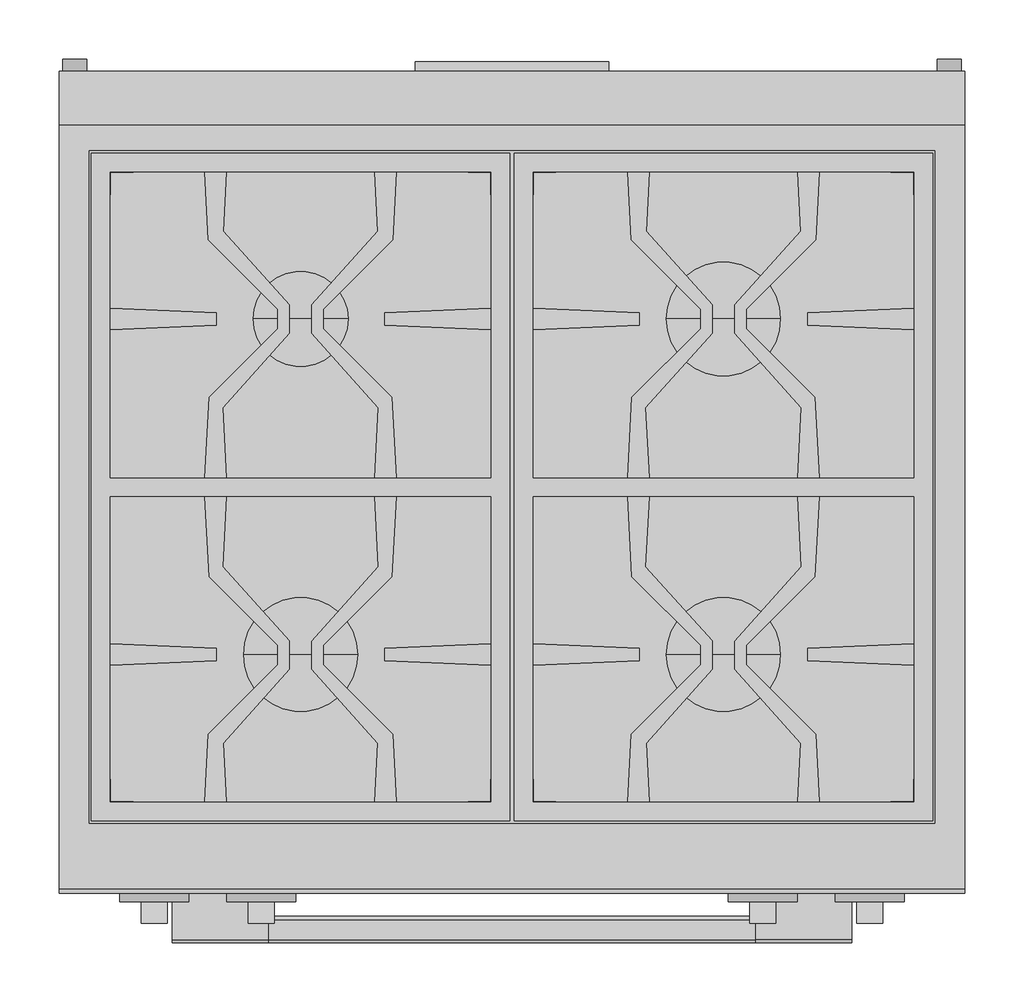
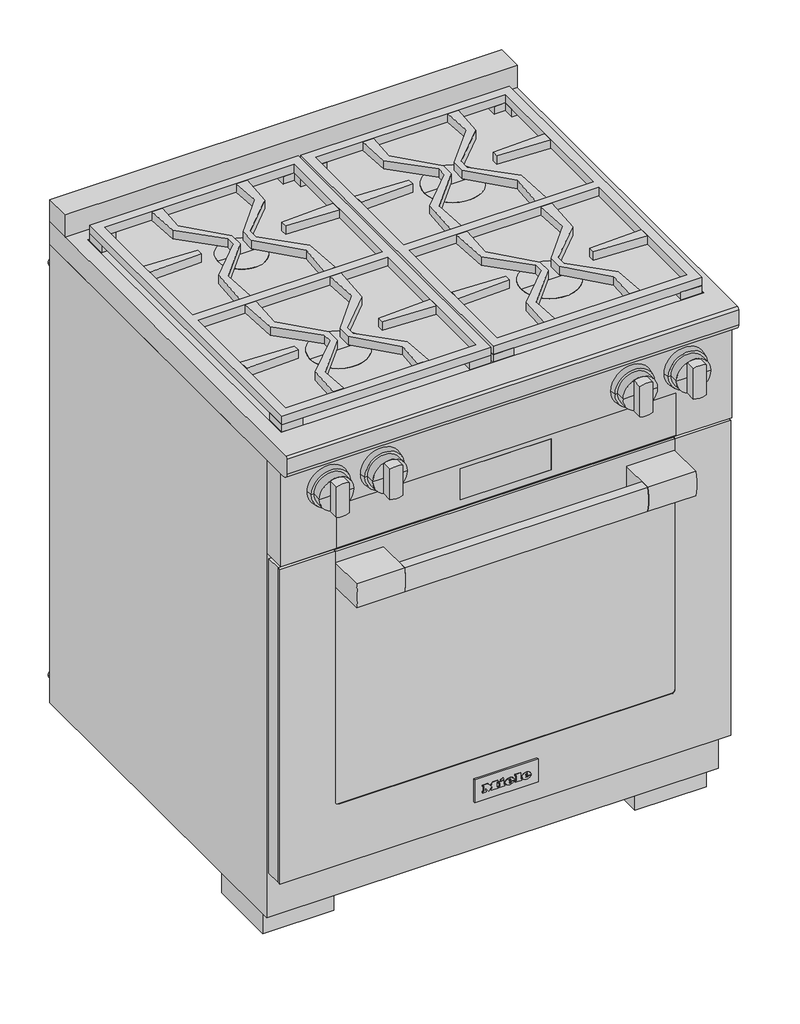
# Not in any storey: 1 proxy.
"""IFC4 building model written with IfcOpenShell, lengths in millimetres."""

from ifc_helpers import new_model, si_unit, origin, place, context, project, spatial, transform, mapped, element, save
from components import specialty_equipment_0885a198, specialty_equipment_ec7f813b

model = new_model("IFC4")

# Units and contexts
model_context = context("Model", 3, world=origin())
ifc_project = project(units=[si_unit("LENGTHUNIT", "METRE", prefix="MILLI")], contexts=[model_context])

# Site, building
site = spatial("IfcSite", under=ifc_project)
building = spatial("IfcBuilding", under=site)

# Proxy
placement = place(None, origin())
specialty_equipment_shape = specialty_equipment_0885a198(model_context)
specialty_equipment_2_shape = specialty_equipment_ec7f813b(model_context)
element("IfcBuildingElementProxy", 1, Name="11791560_USA_HR1924-3LP_EDST-CLS : 25192482_USA_11791560_HR1924-3LP_EDST-CLS", ObjectType="11791560_USA_HR1924-3LP_EDST-CLS : 25192482_USA_11791560_HR1924-3LP_EDST-CLS", at=placement, inside=building, context=model_context, shape_type="MappedRepresentation", body=[
    mapped(specialty_equipment_shape, transform((0.0, 0.0, 0.0), x_axis=(1.0, 0.0, 0.0), y_axis=(0.0, 1.0, 0.0), z_axis=(0.0, 0.0, 1.0))),
    mapped(specialty_equipment_2_shape, transform((0.0, 0.0, 0.0), x_axis=(1.0, 0.0, 0.0), y_axis=(0.0, 1.0, 0.0), z_axis=(0.0, 0.0, 1.0))),
])

save(model, "model.ifc")
